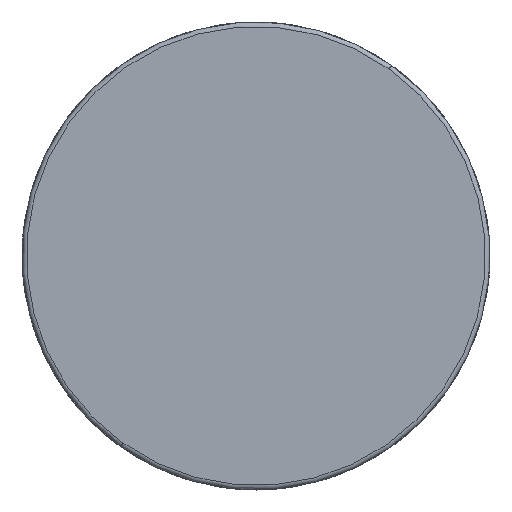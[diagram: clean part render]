
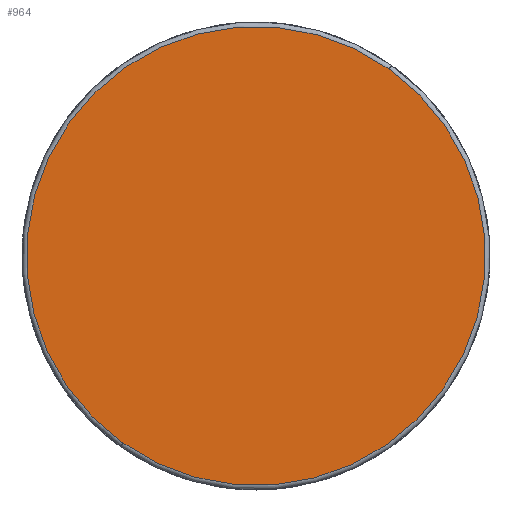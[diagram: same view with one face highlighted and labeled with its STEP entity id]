
A CAD part, front view. The second image highlights one B-rep face of the part: STEP entity #964.
In plain terms, the highlighted planar face has unit normal (0, -1, 0) as drawn and (0, 0, 1) by its records, which use the part's own axes.
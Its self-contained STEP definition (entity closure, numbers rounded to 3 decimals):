
#236 = AXIS2_PLACEMENT_3D ( 'NONE', #1225, #2616, #2148 ) ;
#388 = VERTEX_POINT ( 'NONE', #2140 ) ;
#515 = DIRECTION ( 'NONE',  ( 0., 0., 1. ) ) ;
#631 = CARTESIAN_POINT ( 'NONE',  ( 0., 0., 110. ) ) ;
#964 = ADVANCED_FACE ( 'NONE', ( #2263 ), #4305, .T. ) ;
#1083 = DIRECTION ( 'NONE',  ( 1., 0., 0. ) ) ;
#1225 = CARTESIAN_POINT ( 'NONE',  ( 0., 0., 110. ) ) ;
#1798 = DIRECTION ( 'NONE',  ( 1., 0., 0. ) ) ;
#1914 = AXIS2_PLACEMENT_3D ( 'NONE', #4582, #515, #1798 ) ;
#2014 = VERTEX_POINT ( 'NONE', #4467 ) ;
#2140 = CARTESIAN_POINT ( 'NONE',  ( 25.5, 0., 110. ) ) ;
#2148 = DIRECTION ( 'NONE',  ( 1., 0., 0. ) ) ;
#2263 = FACE_OUTER_BOUND ( 'NONE', #4906, .T. ) ;
#2268 = AXIS2_PLACEMENT_3D ( 'NONE', #631, #4331, #1083 ) ;
#2616 = DIRECTION ( 'NONE',  ( 0., 0., 1. ) ) ;
#3157 = ORIENTED_EDGE ( 'NONE', *, *, #3552, .T. ) ;
#3351 = CIRCLE ( 'NONE', #236, 25.5 ) ;
#3552 = EDGE_CURVE ( 'NONE', #2014, #388, #5177, .T. ) ;
#3949 = ORIENTED_EDGE ( 'NONE', *, *, #4415, .T. ) ;
#4305 = PLANE ( 'NONE',  #2268 ) ;
#4331 = DIRECTION ( 'NONE',  ( 0., 0., 1. ) ) ;
#4415 = EDGE_CURVE ( 'NONE', #388, #2014, #3351, .T. ) ;
#4467 = CARTESIAN_POINT ( 'NONE',  ( -25.5, 0., 110. ) ) ;
#4582 = CARTESIAN_POINT ( 'NONE',  ( 0., 0., 110. ) ) ;
#4906 = EDGE_LOOP ( 'NONE', ( #3949, #3157 ) ) ;
#5177 = CIRCLE ( 'NONE', #1914, 25.5 ) ;
